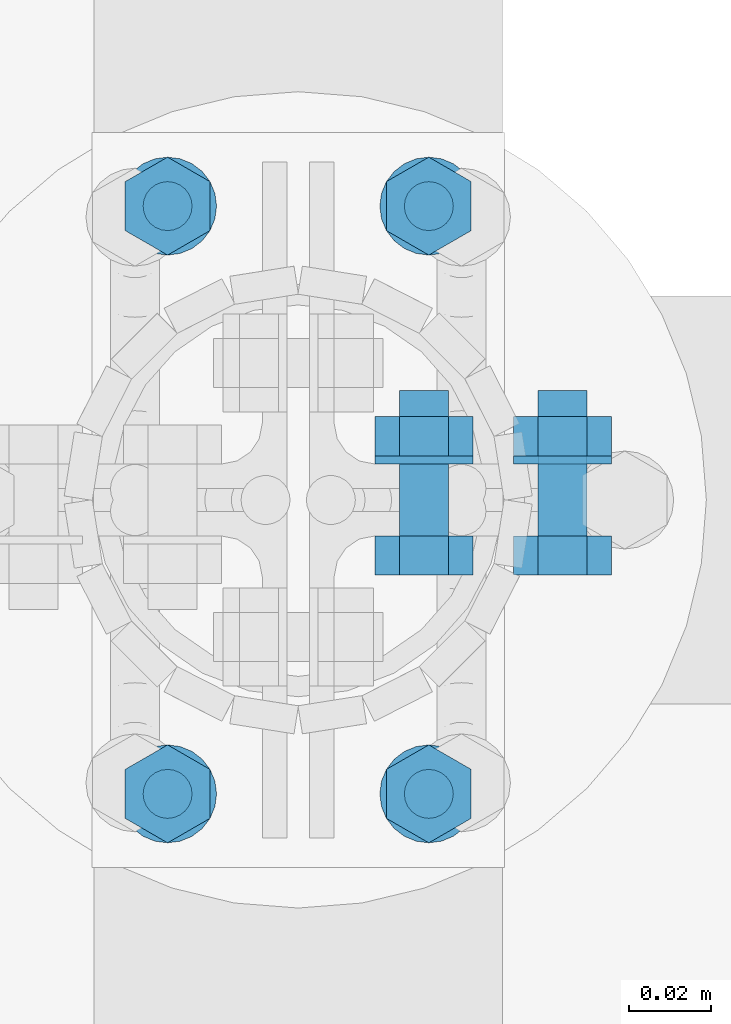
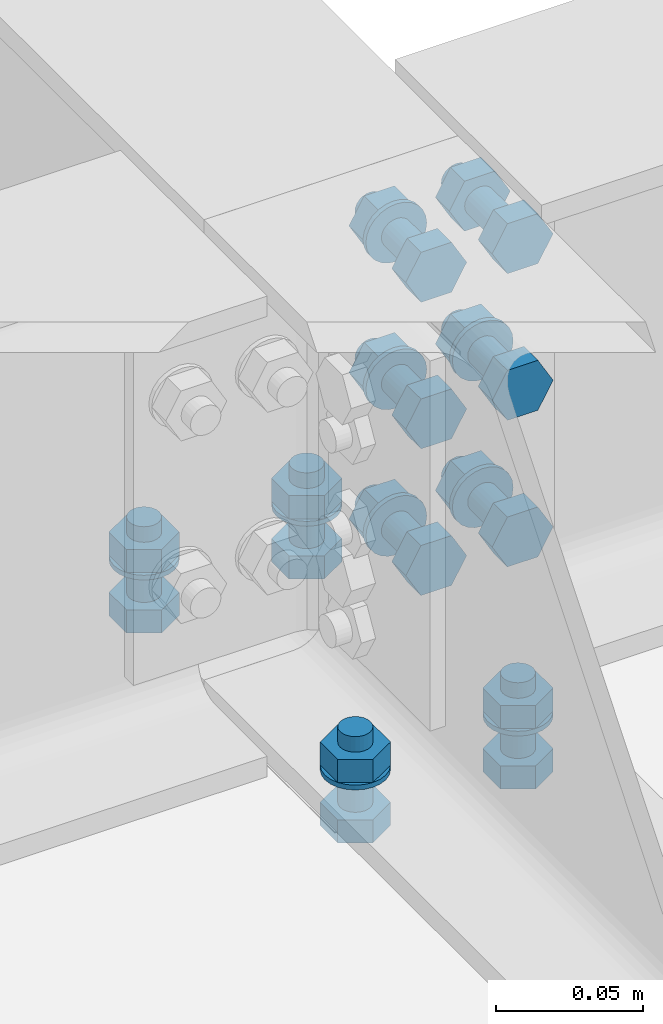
# One storey, part 54 of 84: 39 mechanical fasteners.
"""IFC4 building model written with IfcOpenShell, lengths in metres."""

from ifc_helpers import new_model, si_unit, frame, origin_with_axes, place, context, project, spatial, polyline, outline, extrude, type_object, element, save


model = new_model("IFC4")

# Units and contexts
model_context = context("Model", 3, precision=1e-05, world=origin_with_axes())
ifc_project = project(units=[si_unit("LENGTHUNIT", "METRE"), si_unit("AREAUNIT", "SQUARE_METRE"), si_unit("VOLUMEUNIT", "CUBIC_METRE"), si_unit("MASSUNIT", "GRAM", prefix="KILO"), si_unit("TIMEUNIT", "SECOND"), si_unit("PLANEANGLEUNIT", "RADIAN"), si_unit("SOLIDANGLEUNIT", "STERADIAN"), si_unit("THERMODYNAMICTEMPERATUREUNIT", "DEGREE_CELSIUS")], contexts=[model_context])

# Site, building, storey
placement_1 = place(None, origin_with_axes())
site = spatial("IfcSite", under=ifc_project, at=placement_1, Name="Italia", CompositionType="ELEMENT")
building = spatial("IfcBuilding", under=site, at=placement_1, Name="Tettoia", CompositionType="ELEMENT")
storey_placement = place(None, frame((0.0, 0.0, 4.199999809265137), z_axis=(0.0, 0.0, 1.0), x_axis=(1.0, 0.0, 0.0)))
storey = spatial("IfcBuildingStorey", under=building, at=storey_placement, Name="Storey 1", CompositionType="ELEMENT", Elevation=4.199999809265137)

# Mechanical fasteners
mechanical_fastener_type_1 = type_object("IfcMechanicalFastenerType", Name="Collegamento 0112_-012", PredefinedType="BOLT")
placement_2 = place(placement_1, origin_with_axes())
mechanical_fastener_1_placement = place(placement_2, origin_with_axes())
element("IfcMechanicalFastener", 1, at=mechanical_fastener_1_placement, inside=storey, type_object=mechanical_fastener_type_1, Name="Collegamento 0112_-012", NominalDiameter=0.0119997, context=model_context, shape_type="SweptSolid", body=[
    extrude(outline(polyline([(0.0, 0.0), (0.0120001, 0.0), (0.0179996, -0.0103922), (0.0120001, -0.0207844), (0.0, -0.0207844), (-0.00599957, -0.0103922), (0.0, 0.0)])), frame((4.11239, 14.016, 4.195), z_axis=(0.0, 0.0, -1.0), x_axis=(0.0, 1.0, 0.0)), (0.0, 0.0, 1.0), 0.00959969),
])
mechanical_fastener_type_2 = type_object("IfcMechanicalFastenerType", Name="Collegamento 0112_-012", PredefinedType="BOLT")
mechanical_fastener_2_placement = place(placement_2, origin_with_axes())
element("IfcMechanicalFastener", 2, at=mechanical_fastener_2_placement, inside=storey, type_object=mechanical_fastener_type_2, Name="Collegamento 0112_-012", NominalDiameter=0.012, context=model_context, shape_type="SweptSolid", body=[
    extrude(outline(polyline([(0.0, 0.0), (-0.000204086, -0.00155306), (-0.000802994, -0.00299978), (-0.00175667, -0.00424242), (-0.00299931, -0.00519609), (-0.00444698, -0.00579548), (-0.00599957, -0.00600004), (-0.00755215, -0.00579548), (-0.00899982, -0.00519609), (-0.0102425, -0.00424242), (-0.0111961, -0.00299978), (-0.011795, -0.00155306), (-0.0119991, 0.0), (-0.011795, 0.00155306), (-0.0111961, 0.00299978), (-0.0102425, 0.00424242), (-0.00899982, 0.00519609), (-0.00755215, 0.00579548), (-0.00599957, 0.00600004), (-0.00444698, 0.00579548), (-0.00299931, 0.00519609), (-0.00175667, 0.00424242), (-0.000802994, 0.00299978), (-0.000204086, 0.00155306), (0.0, 0.0)])), frame((4.102, 14.028, 4.2265), z_axis=(0.0, 0.0, -1.0), x_axis=(0.0, 1.0, 0.0)), (0.0, 0.0, 1.0), 0.0315003),
])
mechanical_fastener_type_3 = type_object("IfcMechanicalFastenerType", Name="Collegamento 0112_-012", PredefinedType="BOLT")
mechanical_fastener_3_placement = place(placement_2, origin_with_axes())
element("IfcMechanicalFastener", 3, at=mechanical_fastener_3_placement, inside=storey, type_object=mechanical_fastener_type_3, Name="Collegamento 0112_-012", NominalDiameter=0.0119997, context=model_context, shape_type="SweptSolid", body=[
    extrude(outline(polyline([(0.0, 0.0), (0.0120001, 0.0), (0.0179996, -0.0103922), (0.0120001, -0.0207844), (0.0, -0.0207844), (-0.00599957, -0.0103922), (0.0, 0.0)])), frame((4.11239, 14.016, 4.2201), z_axis=(0.0, 0.0, -1.0), x_axis=(0.0, 1.0, 0.0)), (0.0, 0.0, 1.0), 0.00960016),
])
mechanical_fastener_type_4 = type_object("IfcMechanicalFastenerType", Name="Collegamento 0112_-012", PredefinedType="BOLT")
mechanical_fastener_4_placement = place(placement_2, origin_with_axes())
element("IfcMechanicalFastener", 4, at=mechanical_fastener_4_placement, inside=storey, type_object=mechanical_fastener_type_4, Name="Collegamento 0112_-012", NominalDiameter=0.024, context=model_context, shape_type="SweptSolid", body=[
    extrude(outline(polyline([(0.0, 0.0), (-0.000409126, -0.00310564), (-0.00160789, -0.00600004), (-0.00351524, -0.00848532), (-0.00600052, -0.0103922), (-0.00889397, -0.011591), (-0.0120001, -0.0120001), (-0.0151062, -0.011591), (-0.0179996, -0.0103922), (-0.0204849, -0.00848532), (-0.0223923, -0.00600004), (-0.023591, -0.00310564), (-0.0240002, 0.0), (-0.023591, 0.00310564), (-0.0223923, 0.00600004), (-0.0204849, 0.00848532), (-0.0179996, 0.0103922), (-0.0151062, 0.011591), (-0.0120001, 0.0120001), (-0.00889397, 0.011591), (-0.00600052, 0.0103922), (-0.00351524, 0.00848532), (-0.00160789, 0.00600004), (-0.000409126, 0.00310564), (0.0, 0.0)])), frame((4.102, 14.034, 4.2105), z_axis=(0.0, 0.0, -1.0), x_axis=(0.0, 1.0, 0.0)), (0.0, 0.0, 1.0), 0.00199986),
])
mechanical_fastener_type_5 = type_object("IfcMechanicalFastenerType", Name="Collegamento 0112_-012", PredefinedType="BOLT")
mechanical_fastener_5_placement = place(placement_2, origin_with_axes())
element("IfcMechanicalFastener", 5, at=mechanical_fastener_5_placement, inside=storey, type_object=mechanical_fastener_type_5, Name="Collegamento 0112_-012", NominalDiameter=0.0119997, context=model_context, shape_type="SweptSolid", body=[
    extrude(outline(polyline([(0.0, 0.0), (0.0120001, 0.0), (0.0179996, -0.0103922), (0.0120001, -0.0207844), (0.0, -0.0207844), (-0.00599957, -0.0103922), (0.0, 0.0)])), frame((4.11239, 13.872, 4.195), z_axis=(0.0, 0.0, -1.0), x_axis=(0.0, 1.0, 0.0)), (0.0, 0.0, 1.0), 0.00959969),
])
mechanical_fastener_type_6 = type_object("IfcMechanicalFastenerType", Name="Collegamento 0112_-012", PredefinedType="BOLT")
mechanical_fastener_6_placement = place(placement_2, origin_with_axes())
element("IfcMechanicalFastener", 6, at=mechanical_fastener_6_placement, inside=storey, type_object=mechanical_fastener_type_6, Name="Collegamento 0112_-012", NominalDiameter=0.012, context=model_context, shape_type="SweptSolid", body=[
    extrude(outline(polyline([(0.0, 0.0), (-0.000204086, -0.00155306), (-0.000802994, -0.00299978), (-0.00175667, -0.00424242), (-0.00299931, -0.00519609), (-0.00444698, -0.00579548), (-0.00599957, -0.00600004), (-0.00755215, -0.00579548), (-0.00899982, -0.00519609), (-0.0102425, -0.00424242), (-0.0111961, -0.00299978), (-0.011795, -0.00155306), (-0.0119991, 0.0), (-0.011795, 0.00155306), (-0.0111961, 0.00299978), (-0.0102425, 0.00424242), (-0.00899982, 0.00519609), (-0.00755215, 0.00579548), (-0.00599957, 0.00600004), (-0.00444698, 0.00579548), (-0.00299931, 0.00519609), (-0.00175667, 0.00424242), (-0.000802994, 0.00299978), (-0.000204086, 0.00155306), (0.0, 0.0)])), frame((4.102, 13.884, 4.2265), z_axis=(0.0, 0.0, -1.0), x_axis=(0.0, 1.0, 0.0)), (0.0, 0.0, 1.0), 0.0315003),
])
mechanical_fastener_type_7 = type_object("IfcMechanicalFastenerType", Name="Collegamento 0112_-012", PredefinedType="BOLT")
mechanical_fastener_7_placement = place(placement_2, origin_with_axes())
element("IfcMechanicalFastener", 7, at=mechanical_fastener_7_placement, inside=storey, type_object=mechanical_fastener_type_7, Name="Collegamento 0112_-012", NominalDiameter=0.0119997, context=model_context, shape_type="SweptSolid", body=[
    extrude(outline(polyline([(0.0, 0.0), (0.0120001, 0.0), (0.0179996, -0.0103922), (0.0120001, -0.0207844), (0.0, -0.0207844), (-0.00599957, -0.0103922), (0.0, 0.0)])), frame((4.11239, 13.872, 4.2201), z_axis=(0.0, 0.0, -1.0), x_axis=(0.0, 1.0, 0.0)), (0.0, 0.0, 1.0), 0.00960016),
])
mechanical_fastener_type_8 = type_object("IfcMechanicalFastenerType", Name="Collegamento 0112_-012", PredefinedType="BOLT")
mechanical_fastener_8_placement = place(placement_2, origin_with_axes())
element("IfcMechanicalFastener", 8, at=mechanical_fastener_8_placement, inside=storey, type_object=mechanical_fastener_type_8, Name="Collegamento 0112_-012", NominalDiameter=0.024, context=model_context, shape_type="SweptSolid", body=[
    extrude(outline(polyline([(0.0, 0.0), (-0.000409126, -0.00310564), (-0.00160789, -0.00600004), (-0.00351524, -0.00848532), (-0.00600052, -0.0103922), (-0.00889397, -0.011591), (-0.0120001, -0.0120001), (-0.0151062, -0.011591), (-0.0179996, -0.0103922), (-0.0204849, -0.00848532), (-0.0223923, -0.00600004), (-0.023591, -0.00310564), (-0.0240002, 0.0), (-0.023591, 0.00310564), (-0.0223923, 0.00600004), (-0.0204849, 0.00848532), (-0.0179996, 0.0103922), (-0.0151062, 0.011591), (-0.0120001, 0.0120001), (-0.00889397, 0.011591), (-0.00600052, 0.0103922), (-0.00351524, 0.00848532), (-0.00160789, 0.00600004), (-0.000409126, 0.00310564), (0.0, 0.0)])), frame((4.102, 13.89, 4.2105), z_axis=(0.0, 0.0, -1.0), x_axis=(0.0, 1.0, 0.0)), (0.0, 0.0, 1.0), 0.00199986),
])
mechanical_fastener_type_9 = type_object("IfcMechanicalFastenerType", Name="Collegamento 0112_-012", PredefinedType="BOLT")
mechanical_fastener_9_placement = place(placement_2, origin_with_axes())
element("IfcMechanicalFastener", 9, at=mechanical_fastener_9_placement, inside=storey, type_object=mechanical_fastener_type_9, Name="Collegamento 0112_-012", NominalDiameter=0.0119997, context=model_context, shape_type="SweptSolid", body=[
    extrude(outline(polyline([(0.0, 0.0), (0.0120001, 0.0), (0.0179996, -0.0103922), (0.0120001, -0.0207844), (0.0, -0.0207844), (-0.00599957, -0.0103922), (0.0, 0.0)])), frame((4.04839, 14.016, 4.195), z_axis=(0.0, 0.0, -1.0), x_axis=(0.0, 1.0, 0.0)), (0.0, 0.0, 1.0), 0.00959969),
])
mechanical_fastener_type_10 = type_object("IfcMechanicalFastenerType", Name="Collegamento 0112_-012", PredefinedType="BOLT")
mechanical_fastener_10_placement = place(placement_2, origin_with_axes())
element("IfcMechanicalFastener", 10, at=mechanical_fastener_10_placement, inside=storey, type_object=mechanical_fastener_type_10, Name="Collegamento 0112_-012", NominalDiameter=0.012, context=model_context, shape_type="SweptSolid", body=[
    extrude(outline(polyline([(0.0, 0.0), (-0.000204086, -0.00155306), (-0.000802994, -0.00299978), (-0.00175667, -0.00424242), (-0.00299931, -0.00519609), (-0.00444698, -0.00579548), (-0.00599957, -0.00600004), (-0.00755215, -0.00579548), (-0.00899982, -0.00519609), (-0.0102425, -0.00424242), (-0.0111961, -0.00299978), (-0.011795, -0.00155306), (-0.0119991, 0.0), (-0.011795, 0.00155306), (-0.0111961, 0.00299978), (-0.0102425, 0.00424242), (-0.00899982, 0.00519609), (-0.00755215, 0.00579548), (-0.00599957, 0.00600004), (-0.00444698, 0.00579548), (-0.00299931, 0.00519609), (-0.00175667, 0.00424242), (-0.000802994, 0.00299978), (-0.000204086, 0.00155306), (0.0, 0.0)])), frame((4.038, 14.028, 4.2265), z_axis=(0.0, 0.0, -1.0), x_axis=(0.0, 1.0, 0.0)), (0.0, 0.0, 1.0), 0.0315003),
])
mechanical_fastener_type_11 = type_object("IfcMechanicalFastenerType", Name="Collegamento 0112_-012", PredefinedType="BOLT")
mechanical_fastener_11_placement = place(placement_2, origin_with_axes())
element("IfcMechanicalFastener", 11, at=mechanical_fastener_11_placement, inside=storey, type_object=mechanical_fastener_type_11, Name="Collegamento 0112_-012", NominalDiameter=0.0119997, context=model_context, shape_type="SweptSolid", body=[
    extrude(outline(polyline([(0.0, 0.0), (0.0120001, 0.0), (0.0179996, -0.0103922), (0.0120001, -0.0207844), (0.0, -0.0207844), (-0.00599957, -0.0103922), (0.0, 0.0)])), frame((4.04839, 14.016, 4.2201), z_axis=(0.0, 0.0, -1.0), x_axis=(0.0, 1.0, 0.0)), (0.0, 0.0, 1.0), 0.00960016),
])
mechanical_fastener_type_12 = type_object("IfcMechanicalFastenerType", Name="Collegamento 0112_-012", PredefinedType="BOLT")
mechanical_fastener_12_placement = place(placement_2, origin_with_axes())
element("IfcMechanicalFastener", 12, at=mechanical_fastener_12_placement, inside=storey, type_object=mechanical_fastener_type_12, Name="Collegamento 0112_-012", NominalDiameter=0.024, context=model_context, shape_type="SweptSolid", body=[
    extrude(outline(polyline([(0.0, 0.0), (-0.000409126, -0.00310564), (-0.00160789, -0.00600004), (-0.00351524, -0.00848532), (-0.00600052, -0.0103922), (-0.00889397, -0.011591), (-0.0120001, -0.0120001), (-0.0151062, -0.011591), (-0.0179996, -0.0103922), (-0.0204849, -0.00848532), (-0.0223923, -0.00600004), (-0.023591, -0.00310564), (-0.0240002, 0.0), (-0.023591, 0.00310564), (-0.0223923, 0.00600004), (-0.0204849, 0.00848532), (-0.0179996, 0.0103922), (-0.0151062, 0.011591), (-0.0120001, 0.0120001), (-0.00889397, 0.011591), (-0.00600052, 0.0103922), (-0.00351524, 0.00848532), (-0.00160789, 0.00600004), (-0.000409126, 0.00310564), (0.0, 0.0)])), frame((4.038, 14.034, 4.2105), z_axis=(0.0, 0.0, -1.0), x_axis=(0.0, 1.0, 0.0)), (0.0, 0.0, 1.0), 0.00199986),
])
mechanical_fastener_type_13 = type_object("IfcMechanicalFastenerType", Name="Collegamento 0112_-012", PredefinedType="BOLT")
mechanical_fastener_13_placement = place(placement_2, origin_with_axes())
element("IfcMechanicalFastener", 13, at=mechanical_fastener_13_placement, inside=storey, type_object=mechanical_fastener_type_13, Name="Collegamento 0112_-012", NominalDiameter=0.0119997, context=model_context, shape_type="SweptSolid", body=[
    extrude(outline(polyline([(0.0, 0.0), (0.0120001, 0.0), (0.0179996, -0.0103922), (0.0120001, -0.0207844), (0.0, -0.0207844), (-0.00599957, -0.0103922), (0.0, 0.0)])), frame((4.04839, 13.872, 4.195), z_axis=(0.0, 0.0, -1.0), x_axis=(0.0, 1.0, 0.0)), (0.0, 0.0, 1.0), 0.00959969),
])
mechanical_fastener_type_14 = type_object("IfcMechanicalFastenerType", Name="Collegamento 0112_-012", PredefinedType="BOLT")
mechanical_fastener_14_placement = place(placement_2, origin_with_axes())
element("IfcMechanicalFastener", 14, at=mechanical_fastener_14_placement, inside=storey, type_object=mechanical_fastener_type_14, Name="Collegamento 0112_-012", NominalDiameter=0.012, context=model_context, shape_type="SweptSolid", body=[
    extrude(outline(polyline([(0.0, 0.0), (-0.000204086, -0.00155306), (-0.000802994, -0.00299978), (-0.00175667, -0.00424242), (-0.00299931, -0.00519609), (-0.00444698, -0.00579548), (-0.00599957, -0.00600004), (-0.00755215, -0.00579548), (-0.00899982, -0.00519609), (-0.0102425, -0.00424242), (-0.0111961, -0.00299978), (-0.011795, -0.00155306), (-0.0119991, 0.0), (-0.011795, 0.00155306), (-0.0111961, 0.00299978), (-0.0102425, 0.00424242), (-0.00899982, 0.00519609), (-0.00755215, 0.00579548), (-0.00599957, 0.00600004), (-0.00444698, 0.00579548), (-0.00299931, 0.00519609), (-0.00175667, 0.00424242), (-0.000802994, 0.00299978), (-0.000204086, 0.00155306), (0.0, 0.0)])), frame((4.038, 13.884, 4.2265), z_axis=(0.0, 0.0, -1.0), x_axis=(0.0, 1.0, 0.0)), (0.0, 0.0, 1.0), 0.0315003),
])
mechanical_fastener_type_15 = type_object("IfcMechanicalFastenerType", Name="Collegamento 0112_-012", PredefinedType="BOLT")
mechanical_fastener_15_placement = place(placement_2, origin_with_axes())
element("IfcMechanicalFastener", 15, at=mechanical_fastener_15_placement, inside=storey, type_object=mechanical_fastener_type_15, Name="Collegamento 0112_-012", NominalDiameter=0.0119997, context=model_context, shape_type="SweptSolid", body=[
    extrude(outline(polyline([(0.0, 0.0), (0.0120001, 0.0), (0.0179996, -0.0103922), (0.0120001, -0.0207844), (0.0, -0.0207844), (-0.00599957, -0.0103922), (0.0, 0.0)])), frame((4.04839, 13.872, 4.2201), z_axis=(0.0, 0.0, -1.0), x_axis=(0.0, 1.0, 0.0)), (0.0, 0.0, 1.0), 0.00960016),
])
mechanical_fastener_type_16 = type_object("IfcMechanicalFastenerType", Name="Collegamento 0112_-012", PredefinedType="BOLT")
mechanical_fastener_16_placement = place(placement_2, origin_with_axes())
element("IfcMechanicalFastener", 16, at=mechanical_fastener_16_placement, inside=storey, type_object=mechanical_fastener_type_16, Name="Collegamento 0112_-012", NominalDiameter=0.024, context=model_context, shape_type="SweptSolid", body=[
    extrude(outline(polyline([(0.0, 0.0), (-0.000409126, -0.00310564), (-0.00160789, -0.00600004), (-0.00351524, -0.00848532), (-0.00600052, -0.0103922), (-0.00889397, -0.011591), (-0.0120001, -0.0120001), (-0.0151062, -0.011591), (-0.0179996, -0.0103922), (-0.0204849, -0.00848532), (-0.0223923, -0.00600004), (-0.023591, -0.00310564), (-0.0240002, 0.0), (-0.023591, 0.00310564), (-0.0223923, 0.00600004), (-0.0204849, 0.00848532), (-0.0179996, 0.0103922), (-0.0151062, 0.011591), (-0.0120001, 0.0120001), (-0.00889397, 0.011591), (-0.00600052, 0.0103922), (-0.00351524, 0.00848532), (-0.00160789, 0.00600004), (-0.000409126, 0.00310564), (0.0, 0.0)])), frame((4.038, 13.89, 4.2105), z_axis=(0.0, 0.0, -1.0), x_axis=(0.0, 1.0, 0.0)), (0.0, 0.0, 1.0), 0.00199986),
])
mechanical_fastener_type_17 = type_object("IfcMechanicalFastenerType", Name="Collegamento 0112_-016", PredefinedType="BOLT")
mechanical_fastener_17_placement = place(placement_2, origin_with_axes())
element("IfcMechanicalFastener", 17, at=mechanical_fastener_17_placement, inside=storey, type_object=mechanical_fastener_type_17, Name="Collegamento 0112_-016", NominalDiameter=0.0119999, context=model_context, shape_type="SweptSolid", body=[
    extrude(outline(polyline([(0.0, 0.0), (-0.0120001, 0.0), (-0.0180001, 0.0103927), (-0.0120001, 0.0207849), (0.0, 0.0207849), (0.00600004, 0.0103927), (0.0, 0.0)])), frame((4.1068, 13.9412, 4.22861), z_axis=(0.0, -1.0, 0.0), x_axis=(1.0, 0.0, 0.0)), (0.0, 0.0, 1.0), 0.00960064),
])
mechanical_fastener_type_18 = type_object("IfcMechanicalFastenerType", Name="Collegamento 0112_-016", PredefinedType="BOLT")
mechanical_fastener_18_placement = place(placement_2, origin_with_axes())
element("IfcMechanicalFastener", 18, at=mechanical_fastener_18_placement, inside=storey, type_object=mechanical_fastener_type_18, Name="Collegamento 0112_-016", NominalDiameter=0.012, context=model_context, shape_type="SweptSolid", body=[
    extrude(outline(polyline([(0.0, 0.0), (-0.000204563, -0.00155306), (-0.000803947, -0.00299978), (-0.00175762, -0.00424242), (-0.00300026, -0.00519609), (-0.00444698, -0.00579548), (-0.00600004, -0.00600004), (-0.0075531, -0.00579548), (-0.00899982, -0.00519609), (-0.0102425, -0.00424242), (-0.0111961, -0.00299978), (-0.0117955, -0.00155306), (-0.0120001, 0.0), (-0.0117955, 0.00155306), (-0.0111961, 0.00299978), (-0.0102425, 0.00424242), (-0.00899982, 0.00519609), (-0.0075531, 0.00579548), (-0.00600004, 0.00600004), (-0.00444698, 0.00579548), (-0.00300026, 0.00519609), (-0.00175762, 0.00424242), (-0.000803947, 0.00299978), (-0.000204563, 0.00155306), (0.0, 0.0)])), frame((4.1068, 13.9768, 4.239), z_axis=(0.0, -1.0, 0.0), x_axis=(1.0, 0.0, 0.0)), (0.0, 0.0, 1.0), 0.0355997),
])
mechanical_fastener_type_19 = type_object("IfcMechanicalFastenerType", Name="Collegamento 0112_-016", PredefinedType="BOLT")
mechanical_fastener_19_placement = place(placement_2, origin_with_axes())
element("IfcMechanicalFastener", 19, at=mechanical_fastener_19_placement, inside=storey, type_object=mechanical_fastener_type_19, Name="Collegamento 0112_-016", NominalDiameter=0.0119999, context=model_context, shape_type="SweptSolid", body=[
    extrude(outline(polyline([(0.0, 0.0), (-0.0120001, 0.0), (-0.0180001, 0.0103927), (-0.0120001, 0.0207849), (0.0, 0.0207849), (0.00600004, 0.0103927), (0.0, 0.0)])), frame((4.1068, 13.9704, 4.22861), z_axis=(0.0, -1.0, 0.0), x_axis=(1.0, 0.0, 0.0)), (0.0, 0.0, 1.0), 0.00959969),
])
mechanical_fastener_type_20 = type_object("IfcMechanicalFastenerType", Name="Collegamento 0112_-016", PredefinedType="BOLT")
mechanical_fastener_20_placement = place(placement_2, origin_with_axes())
element("IfcMechanicalFastener", 20, at=mechanical_fastener_20_placement, inside=storey, type_object=mechanical_fastener_type_20, Name="Collegamento 0112_-016", NominalDiameter=0.024, context=model_context, shape_type="SweptSolid", body=[
    extrude(outline(polyline([(0.0, 0.0), (-0.000409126, -0.00310564), (-0.00160789, -0.00600004), (-0.00351477, -0.00848532), (-0.00600004, -0.0103922), (-0.00889444, -0.011591), (-0.0120001, -0.0120001), (-0.0151057, -0.011591), (-0.0180001, -0.0103922), (-0.0204854, -0.00848532), (-0.0223923, -0.00600004), (-0.023591, -0.00310564), (-0.0240002, 0.0), (-0.023591, 0.00310564), (-0.0223923, 0.00600004), (-0.0204854, 0.00848532), (-0.0180001, 0.0103922), (-0.0151057, 0.011591), (-0.0120001, 0.0120001), (-0.00889444, 0.011591), (-0.00600004, 0.0103922), (-0.00351477, 0.00848532), (-0.00160789, 0.00600004), (-0.000409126, 0.00310564), (0.0, 0.0)])), frame((4.1128, 13.9608, 4.239), z_axis=(0.0, -1.0, 0.0), x_axis=(1.0, 0.0, 0.0)), (0.0, 0.0, 1.0), 0.00200081),
])
mechanical_fastener_type_21 = type_object("IfcMechanicalFastenerType", Name="Collegamento 0112_-016", PredefinedType="BOLT")
mechanical_fastener_21_placement = place(placement_2, origin_with_axes())
element("IfcMechanicalFastener", 21, at=mechanical_fastener_21_placement, inside=storey, type_object=mechanical_fastener_type_21, Name="Collegamento 0112_-016", NominalDiameter=0.0119999, context=model_context, shape_type="SweptSolid", body=[
    extrude(outline(polyline([(0.0, 0.0), (-0.0120001, 0.0), (-0.0180001, 0.0103922), (-0.0120001, 0.0207844), (0.0, 0.0207844), (0.00600004, 0.0103922), (0.0, 0.0)])), frame((4.1068, 13.9412, 4.28961), z_axis=(0.0, -1.0, 0.0), x_axis=(1.0, 0.0, 0.0)), (0.0, 0.0, 1.0), 0.00960064),
])
mechanical_fastener_type_22 = type_object("IfcMechanicalFastenerType", Name="Collegamento 0112_-016", PredefinedType="BOLT")
mechanical_fastener_22_placement = place(placement_2, origin_with_axes())
element("IfcMechanicalFastener", 22, at=mechanical_fastener_22_placement, inside=storey, type_object=mechanical_fastener_type_22, Name="Collegamento 0112_-016", NominalDiameter=0.012, context=model_context, shape_type="SweptSolid", body=[
    extrude(outline(polyline([(0.0, 0.0), (-0.000204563, -0.00155306), (-0.000803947, -0.00299978), (-0.00175762, -0.00424242), (-0.00300026, -0.00519609), (-0.00444698, -0.00579548), (-0.00600004, -0.00600004), (-0.0075531, -0.00579548), (-0.00899982, -0.00519609), (-0.0102425, -0.00424242), (-0.0111961, -0.00299978), (-0.0117955, -0.00155306), (-0.0120001, 0.0), (-0.0117955, 0.00155306), (-0.0111961, 0.00299978), (-0.0102425, 0.00424242), (-0.00899982, 0.00519609), (-0.0075531, 0.00579548), (-0.00600004, 0.00600004), (-0.00444698, 0.00579548), (-0.00300026, 0.00519609), (-0.00175762, 0.00424242), (-0.000803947, 0.00299978), (-0.000204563, 0.00155306), (0.0, 0.0)])), frame((4.1068, 13.9768, 4.3), z_axis=(0.0, -1.0, 0.0), x_axis=(1.0, 0.0, 0.0)), (0.0, 0.0, 1.0), 0.0355997),
])
mechanical_fastener_type_23 = type_object("IfcMechanicalFastenerType", Name="Collegamento 0112_-016", PredefinedType="BOLT")
mechanical_fastener_23_placement = place(placement_2, origin_with_axes())
element("IfcMechanicalFastener", 23, at=mechanical_fastener_23_placement, inside=storey, type_object=mechanical_fastener_type_23, Name="Collegamento 0112_-016", NominalDiameter=0.0119999, context=model_context, shape_type="SweptSolid", body=[
    extrude(outline(polyline([(0.0, 0.0), (-0.0120001, 0.0), (-0.0180001, 0.0103922), (-0.0120001, 0.0207844), (0.0, 0.0207844), (0.00600004, 0.0103922), (0.0, 0.0)])), frame((4.1068, 13.9704, 4.28961), z_axis=(0.0, -1.0, 0.0), x_axis=(1.0, 0.0, 0.0)), (0.0, 0.0, 1.0), 0.00959969),
])
mechanical_fastener_type_24 = type_object("IfcMechanicalFastenerType", Name="Collegamento 0112_-016", PredefinedType="BOLT")
mechanical_fastener_24_placement = place(placement_2, origin_with_axes())
element("IfcMechanicalFastener", 24, at=mechanical_fastener_24_placement, inside=storey, type_object=mechanical_fastener_type_24, Name="Collegamento 0112_-016", NominalDiameter=0.024, context=model_context, shape_type="SweptSolid", body=[
    extrude(outline(polyline([(0.0, 0.0), (-0.000409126, -0.00310564), (-0.00160789, -0.00600004), (-0.00351477, -0.00848532), (-0.00600004, -0.0103922), (-0.00889444, -0.011591), (-0.0120001, -0.0120001), (-0.0151057, -0.011591), (-0.0180001, -0.0103922), (-0.0204854, -0.00848532), (-0.0223923, -0.00600004), (-0.023591, -0.00310564), (-0.0240002, 0.0), (-0.023591, 0.00310564), (-0.0223923, 0.00600004), (-0.0204854, 0.00848532), (-0.0180001, 0.0103922), (-0.0151057, 0.011591), (-0.0120001, 0.0120001), (-0.00889444, 0.011591), (-0.00600004, 0.0103922), (-0.00351477, 0.00848532), (-0.00160789, 0.00600004), (-0.000409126, 0.00310564), (0.0, 0.0)])), frame((4.1128, 13.9608, 4.3), z_axis=(0.0, -1.0, 0.0), x_axis=(1.0, 0.0, 0.0)), (0.0, 0.0, 1.0), 0.00200081),
])
mechanical_fastener_type_25 = type_object("IfcMechanicalFastenerType", Name="Collegamento 0112_-016", PredefinedType="BOLT")
mechanical_fastener_25_placement = place(placement_2, origin_with_axes())
element("IfcMechanicalFastener", 25, at=mechanical_fastener_25_placement, inside=storey, type_object=mechanical_fastener_type_25, Name="Collegamento 0112_-016", NominalDiameter=0.0119999, context=model_context, shape_type="SweptSolid", body=[
    extrude(outline(polyline([(0.0, 0.0), (-0.0120001, 0.0), (-0.0180001, 0.0103922), (-0.0120001, 0.0207849), (0.0, 0.0207849), (0.00600004, 0.0103922), (0.0, 0.0)])), frame((4.1068, 13.9412, 4.35061), z_axis=(0.0, -1.0, 0.0), x_axis=(1.0, 0.0, 0.0)), (0.0, 0.0, 1.0), 0.00960064),
])
mechanical_fastener_type_26 = type_object("IfcMechanicalFastenerType", Name="Collegamento 0112_-016", PredefinedType="BOLT")
mechanical_fastener_26_placement = place(placement_2, origin_with_axes())
element("IfcMechanicalFastener", 26, at=mechanical_fastener_26_placement, inside=storey, type_object=mechanical_fastener_type_26, Name="Collegamento 0112_-016", NominalDiameter=0.012, context=model_context, shape_type="SweptSolid", body=[
    extrude(outline(polyline([(0.0, 0.0), (-0.000204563, -0.00155306), (-0.000803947, -0.00299978), (-0.00175762, -0.00424242), (-0.00300026, -0.00519609), (-0.00444698, -0.00579548), (-0.00600004, -0.00600004), (-0.0075531, -0.00579548), (-0.00899982, -0.00519609), (-0.0102425, -0.00424242), (-0.0111961, -0.00299978), (-0.0117955, -0.00155306), (-0.0120001, 0.0), (-0.0117955, 0.00155306), (-0.0111961, 0.00299978), (-0.0102425, 0.00424242), (-0.00899982, 0.00519609), (-0.0075531, 0.00579548), (-0.00600004, 0.00600004), (-0.00444698, 0.00579548), (-0.00300026, 0.00519609), (-0.00175762, 0.00424242), (-0.000803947, 0.00299978), (-0.000204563, 0.00155306), (0.0, 0.0)])), frame((4.1068, 13.9768, 4.361), z_axis=(0.0, -1.0, 0.0), x_axis=(1.0, 0.0, 0.0)), (0.0, 0.0, 1.0), 0.0355997),
])
mechanical_fastener_type_27 = type_object("IfcMechanicalFastenerType", Name="Collegamento 0112_-016", PredefinedType="BOLT")
mechanical_fastener_27_placement = place(placement_2, origin_with_axes())
element("IfcMechanicalFastener", 27, at=mechanical_fastener_27_placement, inside=storey, type_object=mechanical_fastener_type_27, Name="Collegamento 0112_-016", NominalDiameter=0.0119999, context=model_context, shape_type="SweptSolid", body=[
    extrude(outline(polyline([(0.0, 0.0), (-0.0120001, 0.0), (-0.0180001, 0.0103922), (-0.0120001, 0.0207849), (0.0, 0.0207849), (0.00600004, 0.0103922), (0.0, 0.0)])), frame((4.1068, 13.9704, 4.35061), z_axis=(0.0, -1.0, 0.0), x_axis=(1.0, 0.0, 0.0)), (0.0, 0.0, 1.0), 0.00959969),
])
mechanical_fastener_type_28 = type_object("IfcMechanicalFastenerType", Name="Collegamento 0112_-016", PredefinedType="BOLT")
mechanical_fastener_28_placement = place(placement_2, origin_with_axes())
element("IfcMechanicalFastener", 28, at=mechanical_fastener_28_placement, inside=storey, type_object=mechanical_fastener_type_28, Name="Collegamento 0112_-016", NominalDiameter=0.024, context=model_context, shape_type="SweptSolid", body=[
    extrude(outline(polyline([(0.0, 0.0), (-0.000409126, -0.00310564), (-0.00160789, -0.00600004), (-0.00351477, -0.00848532), (-0.00600004, -0.0103922), (-0.00889444, -0.011591), (-0.0120001, -0.0120001), (-0.0151057, -0.011591), (-0.0180001, -0.0103922), (-0.0204854, -0.00848532), (-0.0223923, -0.00600004), (-0.023591, -0.00310564), (-0.0240002, 0.0), (-0.023591, 0.00310564), (-0.0223923, 0.00600004), (-0.0204854, 0.00848532), (-0.0180001, 0.0103922), (-0.0151057, 0.011591), (-0.0120001, 0.0120001), (-0.00889444, 0.011591), (-0.00600004, 0.0103922), (-0.00351477, 0.00848532), (-0.00160789, 0.00600004), (-0.000409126, 0.00310564), (0.0, 0.0)])), frame((4.1128, 13.9608, 4.361), z_axis=(0.0, -1.0, 0.0), x_axis=(1.0, 0.0, 0.0)), (0.0, 0.0, 1.0), 0.00200081),
])
mechanical_fastener_type_29 = type_object("IfcMechanicalFastenerType", Name="Collegamento 0112_-016", PredefinedType="BOLT")
mechanical_fastener_29_placement = place(placement_2, origin_with_axes())
element("IfcMechanicalFastener", 29, at=mechanical_fastener_29_placement, inside=storey, type_object=mechanical_fastener_type_29, Name="Collegamento 0112_-016", NominalDiameter=0.0119996, context=model_context, shape_type="SweptSolid", body=[
    extrude(outline(polyline([(0.0, 0.0), (-0.0119996, 0.0), (-0.0179996, 0.0103927), (-0.0119996, 0.0207849), (0.0, 0.0207849), (0.00600004, 0.0103927), (0.0, 0.0)])), frame((4.1408, 13.9412, 4.22861), z_axis=(0.0, -1.0, 0.0), x_axis=(1.0, 0.0, 0.0)), (0.0, 0.0, 1.0), 0.00960064),
])
mechanical_fastener_type_30 = type_object("IfcMechanicalFastenerType", Name="Collegamento 0112_-016", PredefinedType="BOLT")
mechanical_fastener_30_placement = place(placement_2, origin_with_axes())
element("IfcMechanicalFastener", 30, at=mechanical_fastener_30_placement, inside=storey, type_object=mechanical_fastener_type_30, Name="Collegamento 0112_-016", NominalDiameter=0.012, context=model_context, shape_type="SweptSolid", body=[
    extrude(outline(polyline([(0.0, 0.0), (-0.000204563, -0.00155306), (-0.000803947, -0.00299978), (-0.00175762, -0.00424242), (-0.00300026, -0.00519609), (-0.00444698, -0.00579548), (-0.00600004, -0.00600004), (-0.0075531, -0.00579548), (-0.00899982, -0.00519609), (-0.0102425, -0.00424242), (-0.0111961, -0.00299978), (-0.0117955, -0.00155306), (-0.0120001, 0.0), (-0.0117955, 0.00155306), (-0.0111961, 0.00299978), (-0.0102425, 0.00424242), (-0.00899982, 0.00519609), (-0.0075531, 0.00579548), (-0.00600004, 0.00600004), (-0.00444698, 0.00579548), (-0.00300026, 0.00519609), (-0.00175762, 0.00424242), (-0.000803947, 0.00299978), (-0.000204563, 0.00155306), (0.0, 0.0)])), frame((4.1408, 13.9768, 4.239), z_axis=(0.0, -1.0, 0.0), x_axis=(1.0, 0.0, 0.0)), (0.0, 0.0, 1.0), 0.0355997),
])
mechanical_fastener_type_31 = type_object("IfcMechanicalFastenerType", Name="Collegamento 0112_-016", PredefinedType="BOLT")
mechanical_fastener_31_placement = place(placement_2, origin_with_axes())
element("IfcMechanicalFastener", 31, at=mechanical_fastener_31_placement, inside=storey, type_object=mechanical_fastener_type_31, Name="Collegamento 0112_-016", NominalDiameter=0.0119996, context=model_context, shape_type="SweptSolid", body=[
    extrude(outline(polyline([(0.0, 0.0), (-0.0119996, 0.0), (-0.0179996, 0.0103927), (-0.0119996, 0.0207849), (0.0, 0.0207849), (0.00600004, 0.0103927), (0.0, 0.0)])), frame((4.1408, 13.9704, 4.22861), z_axis=(0.0, -1.0, 0.0), x_axis=(1.0, 0.0, 0.0)), (0.0, 0.0, 1.0), 0.00959969),
])
mechanical_fastener_type_32 = type_object("IfcMechanicalFastenerType", Name="Collegamento 0112_-016", PredefinedType="BOLT")
mechanical_fastener_32_placement = place(placement_2, origin_with_axes())
element("IfcMechanicalFastener", 32, at=mechanical_fastener_32_placement, inside=storey, type_object=mechanical_fastener_type_32, Name="Collegamento 0112_-016", NominalDiameter=0.024, context=model_context, shape_type="SweptSolid", body=[
    extrude(outline(polyline([(0.0, 0.0), (-0.000409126, -0.00310564), (-0.00160789, -0.00600004), (-0.00351477, -0.00848532), (-0.00600004, -0.0103922), (-0.00889444, -0.011591), (-0.0120001, -0.0120001), (-0.0151057, -0.011591), (-0.0180001, -0.0103922), (-0.0204854, -0.00848532), (-0.0223923, -0.00600004), (-0.023591, -0.00310564), (-0.0240002, 0.0), (-0.023591, 0.00310564), (-0.0223923, 0.00600004), (-0.0204854, 0.00848532), (-0.0180001, 0.0103922), (-0.0151057, 0.011591), (-0.0120001, 0.0120001), (-0.00889444, 0.011591), (-0.00600004, 0.0103922), (-0.00351477, 0.00848532), (-0.00160789, 0.00600004), (-0.000409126, 0.00310564), (0.0, 0.0)])), frame((4.1468, 13.9608, 4.239), z_axis=(0.0, -1.0, 0.0), x_axis=(1.0, 0.0, 0.0)), (0.0, 0.0, 1.0), 0.00200081),
])
mechanical_fastener_type_33 = type_object("IfcMechanicalFastenerType", Name="Collegamento 0112_-016", PredefinedType="BOLT")
mechanical_fastener_33_placement = place(placement_2, origin_with_axes())
element("IfcMechanicalFastener", 33, at=mechanical_fastener_33_placement, inside=storey, type_object=mechanical_fastener_type_33, Name="Collegamento 0112_-016", NominalDiameter=0.0119996, context=model_context, shape_type="SweptSolid", body=[
    extrude(outline(polyline([(0.0, 0.0), (-0.0119996, 0.0), (-0.0179996, 0.0103922), (-0.0119996, 0.0207844), (0.0, 0.0207844), (0.00600004, 0.0103922), (0.0, 0.0)])), frame((4.1408, 13.9412, 4.28961), z_axis=(0.0, -1.0, 0.0), x_axis=(1.0, 0.0, 0.0)), (0.0, 0.0, 1.0), 0.00960064),
])
mechanical_fastener_type_34 = type_object("IfcMechanicalFastenerType", Name="Collegamento 0112_-016", PredefinedType="BOLT")
mechanical_fastener_34_placement = place(placement_2, origin_with_axes())
element("IfcMechanicalFastener", 34, at=mechanical_fastener_34_placement, inside=storey, type_object=mechanical_fastener_type_34, Name="Collegamento 0112_-016", NominalDiameter=0.012, context=model_context, shape_type="SweptSolid", body=[
    extrude(outline(polyline([(0.0, 0.0), (-0.000204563, -0.00155306), (-0.000803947, -0.00299978), (-0.00175762, -0.00424242), (-0.00300026, -0.00519609), (-0.00444698, -0.00579548), (-0.00600004, -0.00600004), (-0.0075531, -0.00579548), (-0.00899982, -0.00519609), (-0.0102425, -0.00424242), (-0.0111961, -0.00299978), (-0.0117955, -0.00155306), (-0.0120001, 0.0), (-0.0117955, 0.00155306), (-0.0111961, 0.00299978), (-0.0102425, 0.00424242), (-0.00899982, 0.00519609), (-0.0075531, 0.00579548), (-0.00600004, 0.00600004), (-0.00444698, 0.00579548), (-0.00300026, 0.00519609), (-0.00175762, 0.00424242), (-0.000803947, 0.00299978), (-0.000204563, 0.00155306), (0.0, 0.0)])), frame((4.1408, 13.9768, 4.3), z_axis=(0.0, -1.0, 0.0), x_axis=(1.0, 0.0, 0.0)), (0.0, 0.0, 1.0), 0.0355997),
])
mechanical_fastener_type_35 = type_object("IfcMechanicalFastenerType", Name="Collegamento 0112_-016", PredefinedType="BOLT")
mechanical_fastener_35_placement = place(placement_2, origin_with_axes())
element("IfcMechanicalFastener", 35, at=mechanical_fastener_35_placement, inside=storey, type_object=mechanical_fastener_type_35, Name="Collegamento 0112_-016", NominalDiameter=0.0119996, context=model_context, shape_type="SweptSolid", body=[
    extrude(outline(polyline([(0.0, 0.0), (-0.0119996, 0.0), (-0.0179996, 0.0103922), (-0.0119996, 0.0207844), (0.0, 0.0207844), (0.00600004, 0.0103922), (0.0, 0.0)])), frame((4.1408, 13.9704, 4.28961), z_axis=(0.0, -1.0, 0.0), x_axis=(1.0, 0.0, 0.0)), (0.0, 0.0, 1.0), 0.00959969),
])
mechanical_fastener_type_36 = type_object("IfcMechanicalFastenerType", Name="Collegamento 0112_-016", PredefinedType="BOLT")
mechanical_fastener_36_placement = place(placement_2, origin_with_axes())
element("IfcMechanicalFastener", 36, at=mechanical_fastener_36_placement, inside=storey, type_object=mechanical_fastener_type_36, Name="Collegamento 0112_-016", NominalDiameter=0.024, context=model_context, shape_type="SweptSolid", body=[
    extrude(outline(polyline([(0.0, 0.0), (-0.000409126, -0.00310564), (-0.00160789, -0.00600004), (-0.00351477, -0.00848532), (-0.00600004, -0.0103922), (-0.00889444, -0.011591), (-0.0120001, -0.0120001), (-0.0151057, -0.011591), (-0.0180001, -0.0103922), (-0.0204854, -0.00848532), (-0.0223923, -0.00600004), (-0.023591, -0.00310564), (-0.0240002, 0.0), (-0.023591, 0.00310564), (-0.0223923, 0.00600004), (-0.0204854, 0.00848532), (-0.0180001, 0.0103922), (-0.0151057, 0.011591), (-0.0120001, 0.0120001), (-0.00889444, 0.011591), (-0.00600004, 0.0103922), (-0.00351477, 0.00848532), (-0.00160789, 0.00600004), (-0.000409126, 0.00310564), (0.0, 0.0)])), frame((4.1468, 13.9608, 4.3), z_axis=(0.0, -1.0, 0.0), x_axis=(1.0, 0.0, 0.0)), (0.0, 0.0, 1.0), 0.00200081),
])
mechanical_fastener_type_37 = type_object("IfcMechanicalFastenerType", Name="Collegamento 0112_-016", PredefinedType="BOLT")
mechanical_fastener_37_placement = place(placement_2, origin_with_axes())
element("IfcMechanicalFastener", 37, at=mechanical_fastener_37_placement, inside=storey, type_object=mechanical_fastener_type_37, Name="Collegamento 0112_-016", NominalDiameter=0.0119996, context=model_context, shape_type="SweptSolid", body=[
    extrude(outline(polyline([(0.0, 0.0), (-0.0119996, 0.0), (-0.0179996, 0.0103922), (-0.0119996, 0.0207849), (0.0, 0.0207849), (0.00600004, 0.0103922), (0.0, 0.0)])), frame((4.1408, 13.9412, 4.35061), z_axis=(0.0, -1.0, 0.0), x_axis=(1.0, 0.0, 0.0)), (0.0, 0.0, 1.0), 0.00960064),
])
mechanical_fastener_type_38 = type_object("IfcMechanicalFastenerType", Name="Collegamento 0112_-016", PredefinedType="BOLT")
mechanical_fastener_38_placement = place(placement_2, origin_with_axes())
element("IfcMechanicalFastener", 38, at=mechanical_fastener_38_placement, inside=storey, type_object=mechanical_fastener_type_38, Name="Collegamento 0112_-016", NominalDiameter=0.012, context=model_context, shape_type="SweptSolid", body=[
    extrude(outline(polyline([(0.0, 0.0), (-0.000204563, -0.00155306), (-0.000803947, -0.00299978), (-0.00175762, -0.00424242), (-0.00300026, -0.00519609), (-0.00444698, -0.00579548), (-0.00600004, -0.00600004), (-0.0075531, -0.00579548), (-0.00899982, -0.00519609), (-0.0102425, -0.00424242), (-0.0111961, -0.00299978), (-0.0117955, -0.00155306), (-0.0120001, 0.0), (-0.0117955, 0.00155306), (-0.0111961, 0.00299978), (-0.0102425, 0.00424242), (-0.00899982, 0.00519609), (-0.0075531, 0.00579548), (-0.00600004, 0.00600004), (-0.00444698, 0.00579548), (-0.00300026, 0.00519609), (-0.00175762, 0.00424242), (-0.000803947, 0.00299978), (-0.000204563, 0.00155306), (0.0, 0.0)])), frame((4.1408, 13.9768, 4.361), z_axis=(0.0, -1.0, 0.0), x_axis=(1.0, 0.0, 0.0)), (0.0, 0.0, 1.0), 0.0355997),
])
mechanical_fastener_type_39 = type_object("IfcMechanicalFastenerType", Name="Collegamento 0112_-016", PredefinedType="BOLT")
mechanical_fastener_39_placement = place(placement_2, origin_with_axes())
element("IfcMechanicalFastener", 39, at=mechanical_fastener_39_placement, inside=storey, type_object=mechanical_fastener_type_39, Name="Collegamento 0112_-016", NominalDiameter=0.0119996, context=model_context, shape_type="SweptSolid", body=[
    extrude(outline(polyline([(0.0, 0.0), (-0.0119996, 0.0), (-0.0179996, 0.0103922), (-0.0119996, 0.0207849), (0.0, 0.0207849), (0.00600004, 0.0103922), (0.0, 0.0)])), frame((4.1408, 13.9704, 4.35061), z_axis=(0.0, -1.0, 0.0), x_axis=(1.0, 0.0, 0.0)), (0.0, 0.0, 1.0), 0.00959969),
])

save(model, "model.ifc")
